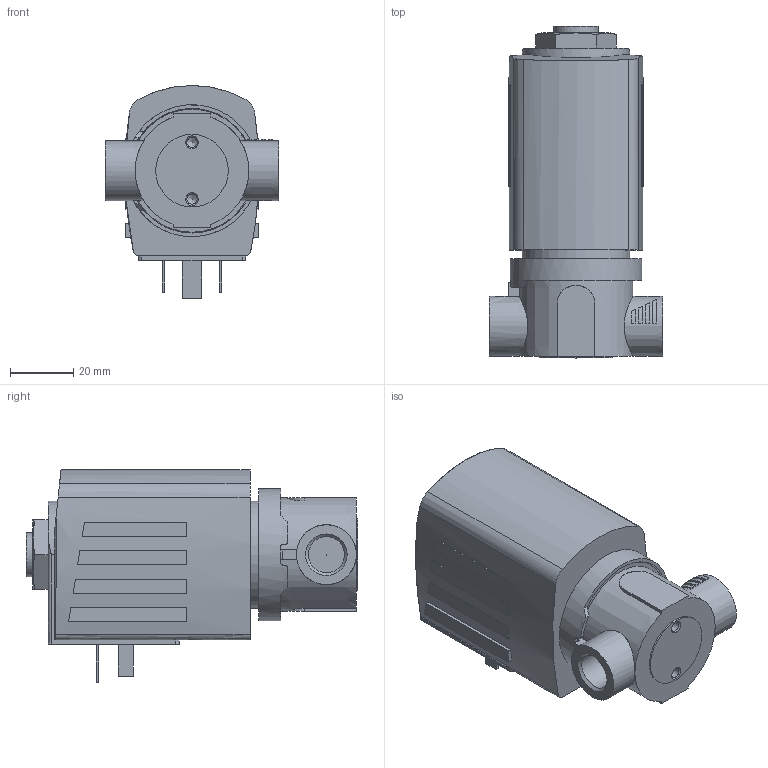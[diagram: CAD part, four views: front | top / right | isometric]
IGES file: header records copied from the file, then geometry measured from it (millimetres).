
Start section: Data from Parasolid IGES Translator 26.0.171, Copyright(c) 2006 Siemens PLM Software. All Rights Reserved.
Global section: file name: 6027-A-6-NBR___NBR-MS-G_1_4-42-024___DC.igs; native system: By Siemens PLM Incorporated; preprocessor: XPlus GENERIC/IGES 26.0.171; author: Noname; organization: Noname; date: 20240323.223728; units: millimetre
Bounding box: 55 x 105.2 x 67.5 mm (x, y, z)
Surface area: 27129.6 mm2 (no closed solid volume)
Topology: 0 solids, 0 shells, 173 faces, 854 edges, 834 vertices
Faces by surface type: extrusion 118, revolution 55
